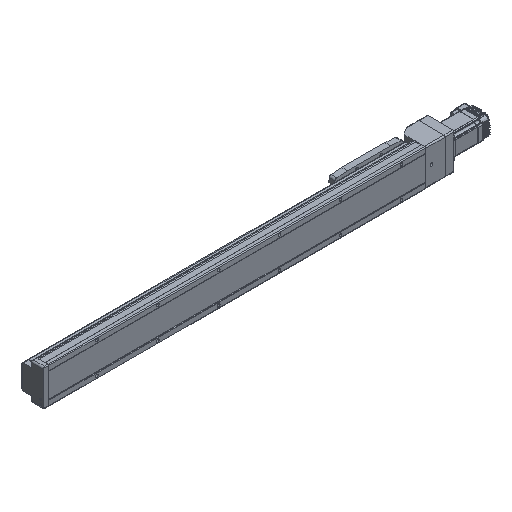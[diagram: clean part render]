
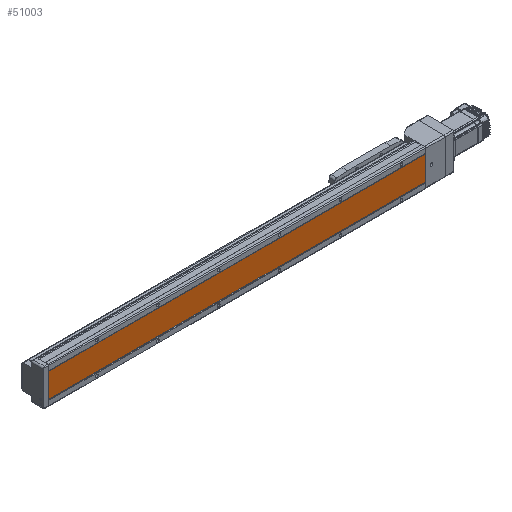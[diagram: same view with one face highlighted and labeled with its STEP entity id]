
A CAD part, isometric view. The second image highlights one B-rep face of the part: STEP entity #51003.
In plain terms, the highlighted planar face has unit normal (0, -1, 0).
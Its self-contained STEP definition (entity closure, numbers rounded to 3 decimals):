
#37 = DIRECTION ( 'NONE',  ( 0., 0., -1. ) ) ;
#1115 = DIRECTION ( 'NONE',  ( 1., 0., 0. ) ) ;
#1554 = ORIENTED_EDGE ( 'NONE', *, *, #36195, .T. ) ;
#4147 = DIRECTION ( 'NONE',  ( 1., 0., 0. ) ) ;
#4280 = LINE ( 'NONE', #17072, #24672 ) ;
#5168 = VERTEX_POINT ( 'NONE', #44449 ) ;
#8929 = DIRECTION ( 'NONE',  ( 0., 0., -1. ) ) ;
#9059 = CARTESIAN_POINT ( 'NONE',  ( 29.843, 1., 0. ) ) ;
#13973 = CARTESIAN_POINT ( 'NONE',  ( -29.843, 1., 928. ) ) ;
#17072 = CARTESIAN_POINT ( 'NONE',  ( 29.843, 1., 1378. ) ) ;
#21626 = CARTESIAN_POINT ( 'NONE',  ( -29.843, 1., 928. ) ) ;
#23219 = LINE ( 'NONE', #35762, #57055 ) ;
#23414 = VECTOR ( 'NONE', #37, 1000. ) ;
#24672 = VECTOR ( 'NONE', #8929, 1000. ) ;
#25395 = LINE ( 'NONE', #21626, #43599 ) ;
#26261 = AXIS2_PLACEMENT_3D ( 'NONE', #55214, #50838, #28909 ) ;
#28783 = VERTEX_POINT ( 'NONE', #41124 ) ;
#28909 = DIRECTION ( 'NONE',  ( 0., 0., 1. ) ) ;
#30521 = VERTEX_POINT ( 'NONE', #9059 ) ;
#33104 = ORIENTED_EDGE ( 'NONE', *, *, #38289, .F. ) ;
#33433 = EDGE_CURVE ( 'NONE', #33926, #5168, #25395, .T. ) ;
#33926 = VERTEX_POINT ( 'NONE', #13973 ) ;
#35542 = LINE ( 'NONE', #56856, #23414 ) ;
#35762 = CARTESIAN_POINT ( 'NONE',  ( -29.843, 1., 0. ) ) ;
#35943 = ORIENTED_EDGE ( 'NONE', *, *, #50017, .T. ) ;
#36195 = EDGE_CURVE ( 'NONE', #28783, #30521, #23219, .T. ) ;
#38289 = EDGE_CURVE ( 'NONE', #5168, #30521, #4280, .T. ) ;
#41124 = CARTESIAN_POINT ( 'NONE',  ( -29.843, 1., 0. ) ) ;
#41198 = FACE_OUTER_BOUND ( 'NONE', #43359, .T. ) ;
#43359 = EDGE_LOOP ( 'NONE', ( #47535, #35943, #1554, #33104 ) ) ;
#43599 = VECTOR ( 'NONE', #4147, 1000. ) ;
#44449 = CARTESIAN_POINT ( 'NONE',  ( 29.843, 1., 928. ) ) ;
#46149 = PLANE ( 'NONE',  #26261 ) ;
#47535 = ORIENTED_EDGE ( 'NONE', *, *, #33433, .F. ) ;
#50017 = EDGE_CURVE ( 'NONE', #33926, #28783, #35542, .T. ) ;
#50838 = DIRECTION ( 'NONE',  ( 0., 1., 0. ) ) ;
#51003 = ADVANCED_FACE ( 'NONE', ( #41198 ), #46149, .F. ) ;
#55214 = CARTESIAN_POINT ( 'NONE',  ( -29.843, 1., 1378. ) ) ;
#56856 = CARTESIAN_POINT ( 'NONE',  ( -29.843, 1., 1378. ) ) ;
#57055 = VECTOR ( 'NONE', #1115, 1000. ) ;
